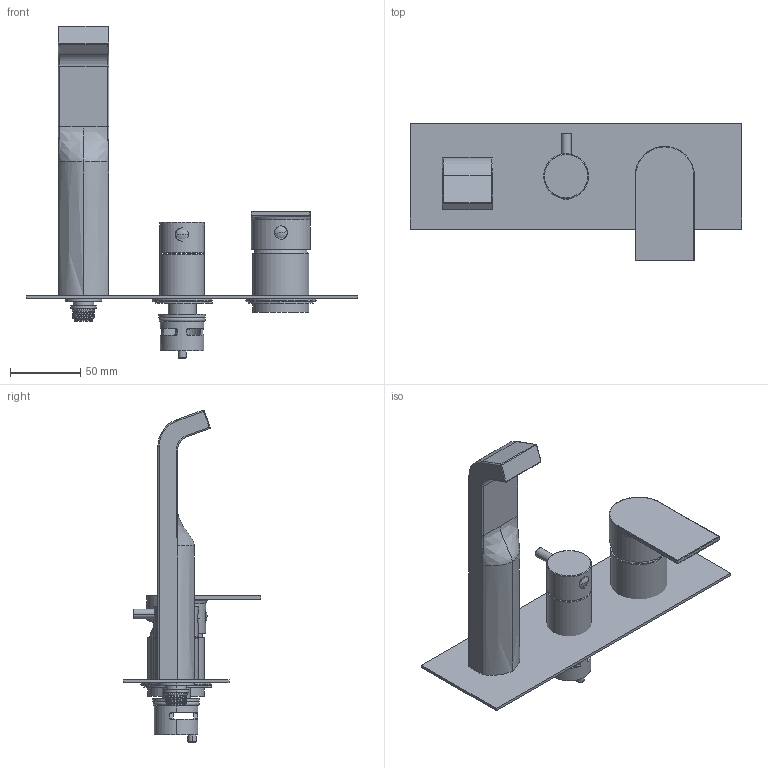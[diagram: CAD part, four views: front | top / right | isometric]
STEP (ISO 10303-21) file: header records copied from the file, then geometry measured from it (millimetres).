
FILE_DESCRIPTION((''),'2;1');
FILE_NAME('83528V2_SW0001','2023-06-01T08:59:30',('volponeff'),(''),'CREO PARAMETRIC BY PTC INC, 2022014','CREO PARAMETRIC BY PTC INC, 2022014','');
FILE_SCHEMA(('CONFIG_CONTROL_DESIGN'));
Length unit declared in the file: millimetre
Products named in the file (1): 83528V2_SW0001
Bounding box: 235 x 97.5 x 235.54 mm (x, y, z)
Surface area: 104116.5 mm2 (no closed solid volume)
Topology: 0 solids, 26 shells, 206 faces, 611 edges, 423 vertices
Faces by surface type: cylinder 78, plane 50, cone 27, torus 22, bspline 21, sphere 8
Entity records: 8840 total; most frequent: CARTESIAN_POINT 3389, DIRECTION 1204, ORIENTED_EDGE 1019, EDGE_CURVE 607, AXIS2_PLACEMENT_3D 487, VERTEX_POINT 423, CIRCLE 302, VECTOR 230
